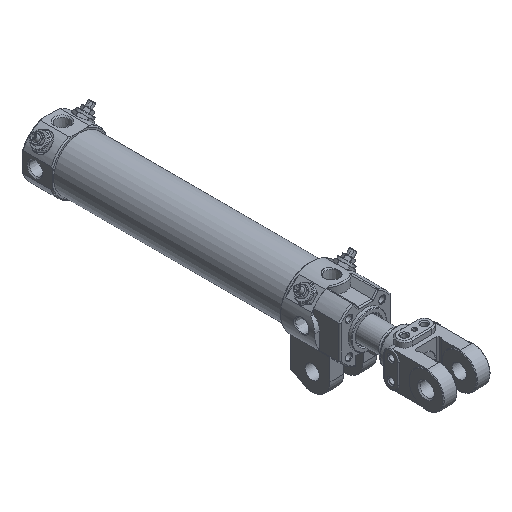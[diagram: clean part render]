
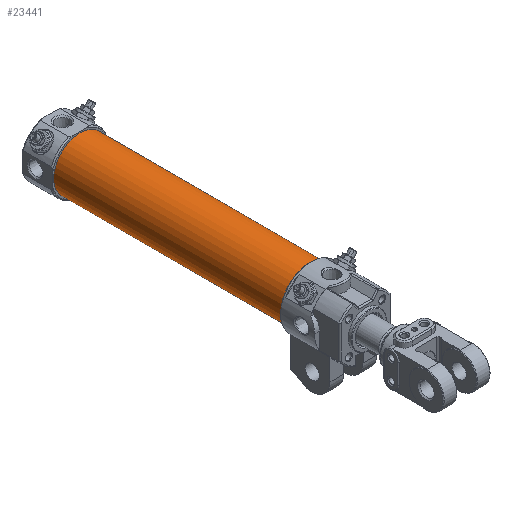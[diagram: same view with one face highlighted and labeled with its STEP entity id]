
A CAD part, isometric view. The second image highlights one B-rep face of the part: STEP entity #23441.
In plain terms, the highlighted cylindrical face has radius 22.5 mm (diameter 45 mm), a full revolution.
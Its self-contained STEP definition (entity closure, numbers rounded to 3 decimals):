
#18120=CARTESIAN_POINT('',(22.5,246.5,0.));
#18121=VERTEX_POINT('',#18120);
#18122=CARTESIAN_POINT('',(0.0,246.5,0.0));
#18123=DIRECTION('',(0.0,-1.0,0.0));
#18124=DIRECTION('',(-1.0,0.0,0.0));
#18125=AXIS2_PLACEMENT_3D('',#18122,#18123,#18124);
#18126=CIRCLE('',#18125,22.5);
#18127=EDGE_CURVE('',#18121,#18121,#18126,.T.);
#23418=CARTESIAN_POINT('',(22.5,50.5,0.));
#23419=VERTEX_POINT('',#23418);
#23420=CARTESIAN_POINT('',(0.0,50.5,0.0));
#23421=DIRECTION('',(0.0,-1.0,0.0));
#23422=DIRECTION('',(-1.0,0.0,0.0));
#23423=AXIS2_PLACEMENT_3D('',#23420,#23421,#23422);
#23424=CIRCLE('',#23423,22.5);
#23425=EDGE_CURVE('',#23419,#23419,#23424,.T.);
#23430=CARTESIAN_POINT('',(0.0,50.5,0.0));
#23431=DIRECTION('',(0.0,1.0,0.0));
#23432=DIRECTION('',(-1.0,0.0,0.0));
#23433=AXIS2_PLACEMENT_3D('',#23430,#23431,#23432);
#23434=CYLINDRICAL_SURFACE('',#23433,22.5);
#23435=ORIENTED_EDGE('',*,*,#18127,.T.);
#23436=EDGE_LOOP('',(#23435));
#23437=FACE_OUTER_BOUND('',#23436,.T.);
#23438=ORIENTED_EDGE('',*,*,#23425,.F.);
#23439=EDGE_LOOP('',(#23438));
#23440=FACE_BOUND('',#23439,.T.);
#23441=ADVANCED_FACE('',(#23437,#23440),#23434,.T.);
